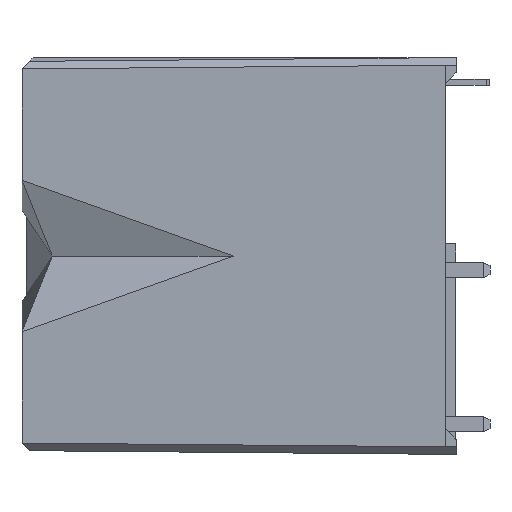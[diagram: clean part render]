
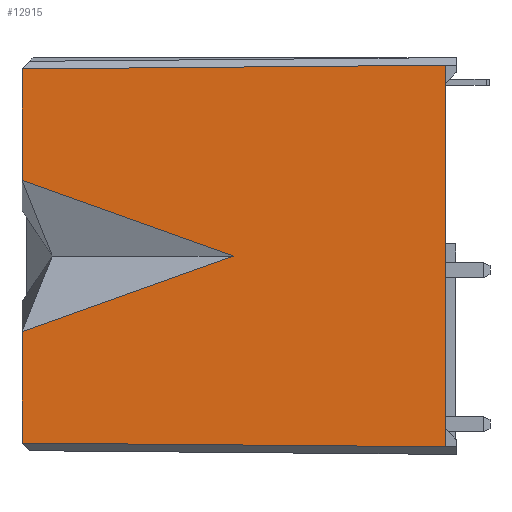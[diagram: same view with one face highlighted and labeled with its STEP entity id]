
A CAD part, left-side view. The second image highlights one B-rep face of the part: STEP entity #12915.
In plain terms, the highlighted planar face has unit normal (-1, 0.009, 0).
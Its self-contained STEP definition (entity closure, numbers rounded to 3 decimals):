
#3128=ORIENTED_EDGE('',*,*,#5543,.F.);
#3129=ORIENTED_EDGE('',*,*,#5544,.T.);
#3130=ORIENTED_EDGE('',*,*,#5501,.T.);
#3131=ORIENTED_EDGE('',*,*,#5545,.T.);
#3132=ORIENTED_EDGE('',*,*,#5546,.F.);
#3133=ORIENTED_EDGE('',*,*,#5547,.T.);
#3134=ORIENTED_EDGE('',*,*,#5548,.F.);
#3135=ORIENTED_EDGE('',*,*,#5549,.F.);
#3136=ORIENTED_EDGE('',*,*,#5550,.F.);
#3137=ORIENTED_EDGE('',*,*,#5551,.F.);
#3138=ORIENTED_EDGE('',*,*,#5552,.T.);
#5501=EDGE_CURVE('',#6845,#6844,#8381,.T.);
#5543=EDGE_CURVE('',#6877,#6878,#8421,.T.);
#5544=EDGE_CURVE('',#6877,#6845,#8422,.T.);
#5545=EDGE_CURVE('',#6844,#6879,#8423,.T.);
#5546=EDGE_CURVE('',#6880,#6879,#8424,.T.);
#5547=EDGE_CURVE('',#6880,#6881,#8425,.T.);
#5548=EDGE_CURVE('',#6882,#6881,#8426,.T.);
#5549=EDGE_CURVE('',#6883,#6882,#8427,.T.);
#5550=EDGE_CURVE('',#6884,#6883,#8428,.T.);
#5551=EDGE_CURVE('',#6885,#6884,#8429,.T.);
#5552=EDGE_CURVE('',#6885,#6878,#8430,.T.);
#6844=VERTEX_POINT('',#22245);
#6845=VERTEX_POINT('',#22247);
#6877=VERTEX_POINT('',#22330);
#6878=VERTEX_POINT('',#22331);
#6879=VERTEX_POINT('',#22334);
#6880=VERTEX_POINT('',#22336);
#6881=VERTEX_POINT('',#22338);
#6882=VERTEX_POINT('',#22340);
#6883=VERTEX_POINT('',#22342);
#6884=VERTEX_POINT('',#22344);
#6885=VERTEX_POINT('',#22346);
#8381=LINE('',#22246,#9984);
#8421=LINE('',#22329,#10024);
#8422=LINE('',#22332,#10025);
#8423=LINE('',#22333,#10026);
#8424=LINE('',#22335,#10027);
#8425=LINE('',#22337,#10028);
#8426=LINE('',#22339,#10029);
#8427=LINE('',#22341,#10030);
#8428=LINE('',#22343,#10031);
#8429=LINE('',#22345,#10032);
#8430=LINE('',#22347,#10033);
#9984=VECTOR('',#16491,1000.);
#10024=VECTOR('',#16553,1000.);
#10025=VECTOR('',#16554,1000.);
#10026=VECTOR('',#16555,1000.);
#10027=VECTOR('',#16556,1000.);
#10028=VECTOR('',#16557,1000.);
#10029=VECTOR('',#16558,1000.);
#10030=VECTOR('',#16559,1000.);
#10031=VECTOR('',#16560,1000.);
#10032=VECTOR('',#16561,1000.);
#10033=VECTOR('',#16562,1000.);
#10809=EDGE_LOOP('',(#3128,#3129,#3130,#3131,#3132,#3133,#3134,#3135,#3136,
#3137,#3138));
#11597=FACE_BOUND('',#10809,.T.);
#12266=PLANE('',#13749);
#12915=ADVANCED_FACE('',(#11597),#12266,.T.);
#13749=AXIS2_PLACEMENT_3D('',#22328,#16551,#16552);
#16491=DIRECTION('',(0.,0.,1.));
#16551=DIRECTION('',(-1.,0.009,0.));
#16552=DIRECTION('',(0.,0.,-1.));
#16553=DIRECTION('',(0.009,1.,0.009));
#16554=DIRECTION('',(0.,0.,1.));
#16555=DIRECTION('',(0.,0.,1.));
#16556=DIRECTION('',(-0.009,-1.,0.009));
#16557=DIRECTION('',(0.,0.,-1.));
#16558=DIRECTION('',(0.004,0.414,0.91));
#16559=DIRECTION('',(0.008,0.941,0.337));
#16560=DIRECTION('',(-0.008,-0.941,0.337));
#16561=DIRECTION('',(-0.004,-0.414,0.91));
#16562=DIRECTION('',(0.,0.,-1.));
#22245=CARTESIAN_POINT('',(-38.11,-3.755,43.557));
#22246=CARTESIAN_POINT('',(-38.11,-3.755,-3.493));
#22247=CARTESIAN_POINT('',(-38.11,-3.755,-2.043));
#22328=CARTESIAN_POINT('',(-37.622,52.253,-4.503));
#22329=CARTESIAN_POINT('',(-37.622,52.249,-4.004));
#22330=CARTESIAN_POINT('',(-38.11,-3.755,-4.493));
#22331=CARTESIAN_POINT('',(-37.622,52.245,-4.004));
#22332=CARTESIAN_POINT('',(-38.11,-3.755,-4.493));
#22333=CARTESIAN_POINT('',(-38.11,-3.755,-3.493));
#22334=CARTESIAN_POINT('',(-38.11,-3.755,46.007));
#22335=CARTESIAN_POINT('',(-37.618,52.69,45.515));
#22336=CARTESIAN_POINT('',(-37.622,52.245,45.519));
#22337=CARTESIAN_POINT('',(-37.622,52.245,23.956));
#22338=CARTESIAN_POINT('',(-37.622,52.245,30.8));
#22339=CARTESIAN_POINT('',(-37.738,38.948,1.545));
#22340=CARTESIAN_POINT('',(-37.622,52.229,30.766));
#22341=CARTESIAN_POINT('',(-37.719,41.053,26.762));
#22342=CARTESIAN_POINT('',(-37.866,24.292,20.757));
#22343=CARTESIAN_POINT('',(-37.579,57.092,9.007));
#22344=CARTESIAN_POINT('',(-37.622,52.229,10.749));
#22345=CARTESIAN_POINT('',(-37.572,57.979,-1.9));
#22346=CARTESIAN_POINT('',(-37.622,52.245,10.714));
#22347=CARTESIAN_POINT('',(-37.622,52.245,-4.503));
